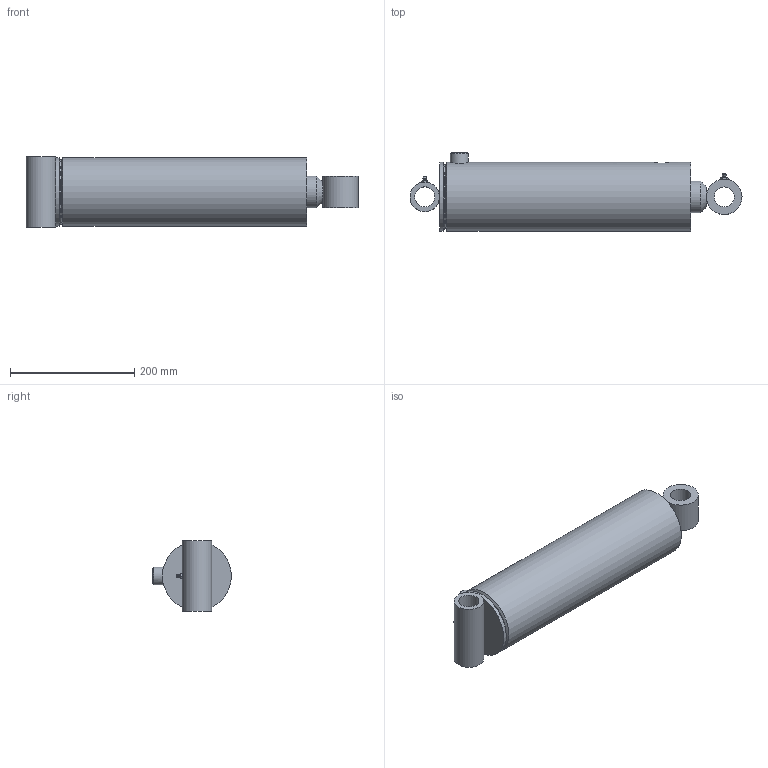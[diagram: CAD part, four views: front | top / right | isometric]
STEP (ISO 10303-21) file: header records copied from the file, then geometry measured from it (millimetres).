
FILE_DESCRIPTION((''),'2;1');
FILE_NAME('C:\Vault\Workspace\Vest\PMC-5610.stp','2010-09-27T11:39:41',('kneifld'),(''),'Autodesk Inventor 2010','Autodesk Inventor 2010','');
FILE_SCHEMA(('AUTOMOTIVE_DESIGN { 1 0 10303 214 1 1 1 1 }'));
Length unit declared in the file: inch
Products named in the file (21): PMC-5610; 061900034; 051900056; 161900081V; 200014404V; 210600086V; 021100295; 011100865; 210600347V; 071900019; 081900451V; 220000212V; 240000026V; 240061342V; 240000342V; 240020009V; 230001400V; 200018003V; 270010002V; 270010020V; 250001329V
Assembly tree (21 placements, depth 3):
  PMC-5610
    061900034
      051900056
      161900081V
      200014404V
      210600086V
    021100295
      011100865
      210600347V
    071900019
    081900451V
    220000212V
    240000026V
    240061342V
    240000342V
    240020009V
    230001400V
    200018003V  x2
    270010002V
    270010020V
    250001329V
Bounding box: 535 x 127 x 114.3 mm (x, y, z)
Volume: 2358692 mm3; surface area: 534001.2 mm2
Topology: 19 solids, 19 shells, 236 faces, 476 edges, 286 vertices
Faces by surface type: plane 99, cylinder 55, cone 36, torus 23, bspline 21, sphere 2
Full cylindrical faces by diameter (mm): 1.524 x2, 3.175 x2, 6.074 x1, 8.839 x1, 9.08 x1, 12.7 x1, 23.813 x1, 28.575 x1, 31.699 x1, 31.826 x1, 32.258 x1, 32.385 x1, 34.315 x1, 47.625 x1, 50.8 x2, 50.876 x2, 51.752 x1, 54.61 x1, 57.15 x1, 58.725 x2, 59.373 x1, 60.325 x1, 60.452 x1, 63.5 x1, 80.95 x1, 91.592 x1, 92.151 x1, 92.71 x1, 92.964 x1, 95.25 x1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
Entity records: 6672 total; most frequent: CARTESIAN_POINT 2064, DIRECTION 911, ORIENTED_EDGE 604, AXIS2_PLACEMENT_3D 423, EDGE_LOOP 386, EDGE_CURVE 302, VERTEX_POINT 248, FACE_OUTER_BOUND 219
